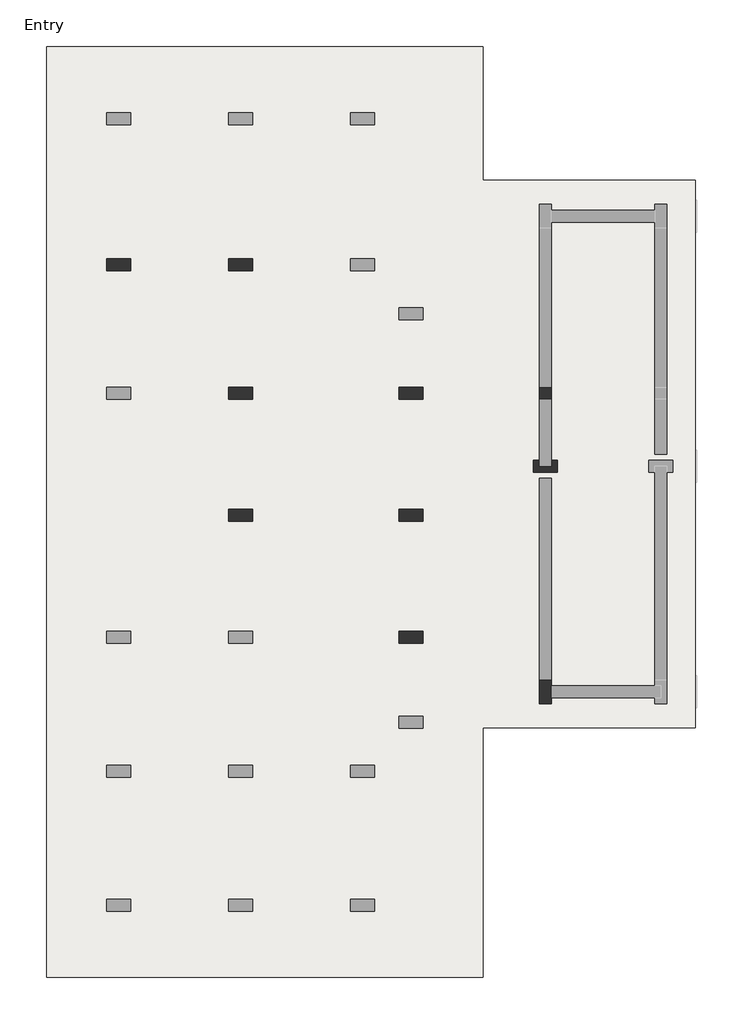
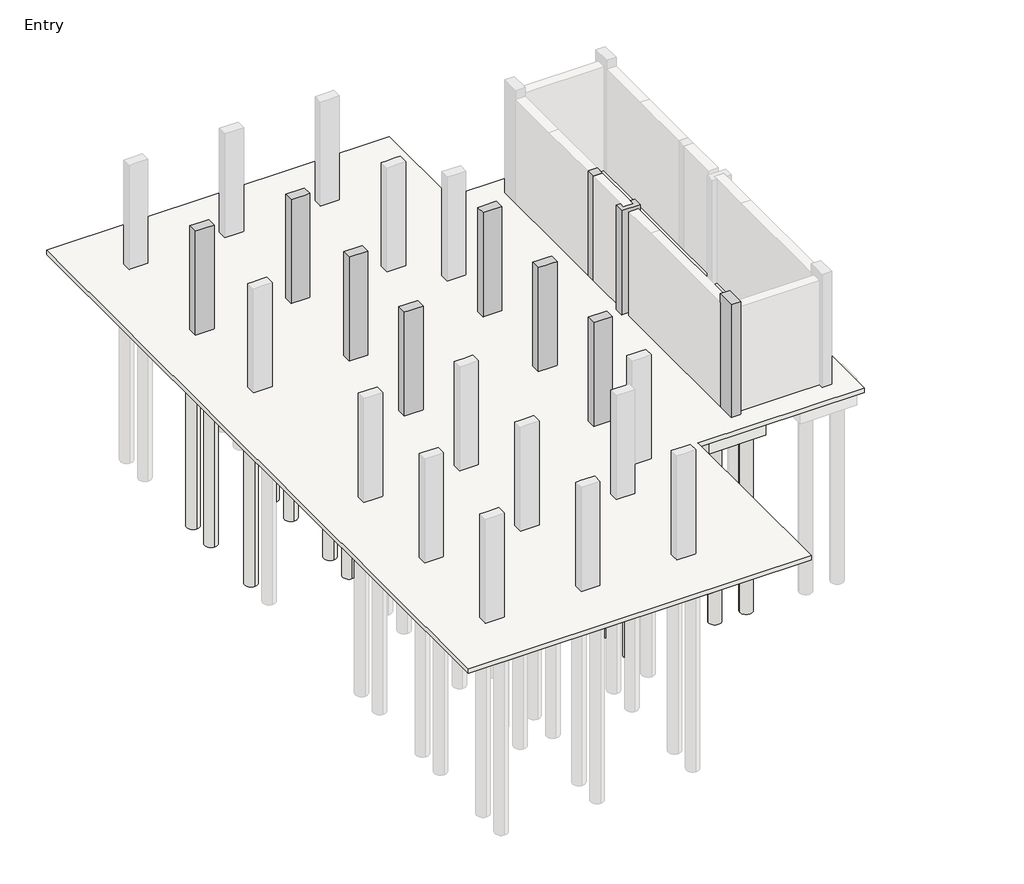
# One storey, part 2 of 3: 35 slabs, 10 columns, 3 footings.
"""IFC4 building model written with IfcOpenShell, lengths in millimetres."""

import ifcopenshell
import ifcopenshell.guid

model = None  # the IFC model being written
_history = None  # IfcOwnerHistory: only IFC2X3 demands one
_inside = {}  # id of a spatial element -> (the spatial element, [elements in it])
_under = {}  # id of a project, library or spatial element -> (it, [spatial elements below it])
_declared = {}  # id of a project -> (the project, [libraries it declares])
_typed = {}  # id of a type object -> (the type object, [elements of that type])
_made_of = {}  # id of a material, layer set ... -> (it, [elements and type objects made of it])


def new_model(schema):
    """Start an empty IFC model of exactly this schema.

    Asked for "IFC4X3", IfcOpenShell would pick the latest addendum, in which some entities
    have other attributes; the version numbers below select the first issue.
    IFC2X3 requires an IfcOwnerHistory on every rooted entity: one is made here for all.
    """
    global model, _history
    if schema == "IFC4X3":
        model = ifcopenshell.file(schema_version=(4, 3, 0, 0))
    else:
        model = ifcopenshell.file(schema=schema)
    _inside.clear()
    _under.clear()
    _declared.clear()
    _typed.clear()
    _made_of.clear()
    _history = None
    if model.schema == "IFC2X3":
        org = make("IfcOrganization", Name="unknown")
        user = make(
            "IfcPersonAndOrganization",
            ThePerson=make("IfcPerson", FamilyName="unknown"),
            TheOrganization=org,
        )
        app = make(
            "IfcApplication",
            ApplicationDeveloper=org,
            Version="unknown",
            ApplicationFullName="unknown",
            ApplicationIdentifier="unknown",
        )
        _history = make(
            "IfcOwnerHistory",
            OwningUser=user,
            OwningApplication=app,
            ChangeAction="ADDED",
            CreationDate=0,
        )
    return model


def make(cls, **values):
    """One entity of the class cls with the attributes given. An attribute that is None is left unset."""
    return model.create_entity(
        cls, **{name: value for name, value in values.items() if value is not None}
    )


def rooted(cls, **values):
    """An entity with a GlobalId (a new one), such as an element, a storey or a relation."""
    return make(cls, GlobalId=ifcopenshell.guid.new(), OwnerHistory=_history, **values)


def si_unit(unit_type, name, prefix=None):
    """IfcSIUnit, for example si_unit("LENGTHUNIT", "METRE", prefix="MILLI")."""
    return make("IfcSIUnit", UnitType=unit_type, Prefix=prefix, Name=name)


def assignment(units):
    """IfcUnitAssignment: the units of a project."""
    return None if units is None else make("IfcUnitAssignment", Units=units)


def point(xyz):
    """IfcCartesianPoint."""
    return None if xyz is None else make("IfcCartesianPoint", Coordinates=xyz)


def direction(xyz):
    """IfcDirection."""
    return None if xyz is None else make("IfcDirection", DirectionRatios=xyz)


def frame(location, z_axis=None, x_axis=None):
    """IfcAxis2Placement3D, a coordinate frame: its origin and axes. An axis left out is left unset."""
    return make(
        "IfcAxis2Placement3D",
        Location=point(location),
        Axis=direction(z_axis),
        RefDirection=direction(x_axis),
    )


def frame_2d(location, x_axis=None):
    """IfcAxis2Placement2D, a coordinate frame in the plane: its origin and x axis."""
    return make(
        "IfcAxis2Placement2D", Location=point(location), RefDirection=direction(x_axis)
    )


def origin():
    """The frame at (0, 0, 0) with its axes left unset."""
    return frame((0.0, 0.0, 0.0))


def origin_with_axes():
    """The frame at (0, 0, 0) with the z axis (0, 0, 1) and the x axis (1, 0, 0) written out."""
    return frame((0.0, 0.0, 0.0), z_axis=(0.0, 0.0, 1.0), x_axis=(1.0, 0.0, 0.0))


def place(relative_to, where):
    """IfcLocalPlacement: puts the frame where relative to a parent placement (None: the world)."""
    return make(
        "IfcLocalPlacement", PlacementRelTo=relative_to, RelativePlacement=where
    )


def context(
    kind, dimensions, precision=None, world=None, true_north=None, identifier=None
):
    """IfcGeometricRepresentationContext, for example the 3D "Model" context."""
    return make(
        "IfcGeometricRepresentationContext",
        ContextIdentifier=identifier,
        ContextType=kind,
        CoordinateSpaceDimension=dimensions,
        Precision=precision,
        WorldCoordinateSystem=world,
        TrueNorth=true_north,
    )


def project(units=None, contexts=None):
    """IfcProject with its units and contexts."""
    return rooted(
        "IfcProject",
        Name="project",
        RepresentationContexts=contexts,
        UnitsInContext=assignment(units),
    )


def spatial(cls, under=None, at=None, **own):
    """A site, building, storey or space (cls), placed at a placement, below another one or the project."""
    s = rooted(cls, ObjectPlacement=at, **own)
    if under is not None:
        _under.setdefault(under.id(), (under, []))[1].append(s)
    return s


def polyline(points):
    """IfcPolyline through the points."""
    return make("IfcPolyline", Points=[point(p) for p in points])


def circle_curve(where, radius):
    """IfcCircle in the frame where."""
    return make("IfcCircle", Position=where, Radius=radius)


def trimmed(basis, trim1, trim2, sense, master):
    """IfcTrimmedCurve: the piece of a basis curve between two trims."""
    return make(
        "IfcTrimmedCurve",
        BasisCurve=basis,
        Trim1=trim1,
        Trim2=trim2,
        SenseAgreement=sense,
        MasterRepresentation=master,
    )


def segment(curve, same_sense, transition):
    """IfcCompositeCurveSegment."""
    return make(
        "IfcCompositeCurveSegment",
        Transition=transition,
        SameSense=same_sense,
        ParentCurve=curve,
    )


def composite_curve(segments, self_intersect=None):
    """IfcCompositeCurve: segments joined end to end."""
    return make("IfcCompositeCurve", Segments=segments, SelfIntersect=self_intersect)


def outline(outer, holes=None, kind="AREA"):
    """IfcArbitraryClosedProfileDef: a profile drawn as a closed curve; with holes, ...WithVoids."""
    if holes is None:
        return make("IfcArbitraryClosedProfileDef", ProfileType=kind, OuterCurve=outer)
    return make(
        "IfcArbitraryProfileDefWithVoids",
        ProfileType=kind,
        OuterCurve=outer,
        InnerCurves=holes,
    )


def extrude(swept, where, along, depth):
    """IfcExtrudedAreaSolid: the profile swept, set in the frame where, extruded along a direction by depth."""
    return make(
        "IfcExtrudedAreaSolid",
        SweptArea=swept,
        Position=where,
        ExtrudedDirection=direction(along),
        Depth=depth,
    )


def faces_of(points, faces, orient=None, outer=None):
    """IfcFace entities. A face is a list of loops; a loop is a list of indices into points, from 0.

    orient and outer hold one flag for each loop. By default every Orientation is true, the
    first loop of a face is its IfcFaceOuterBound and the others are IfcFaceBound.
    """
    made = []
    for i, loops in enumerate(faces):
        bounds = []
        for j, loop in enumerate(loops):
            is_outer = j == 0 if outer is None else outer[i][j]
            bounds.append(
                make(
                    "IfcFaceOuterBound" if is_outer else "IfcFaceBound",
                    Bound=make("IfcPolyLoop", Polygon=[points[k] for k in loop]),
                    Orientation=True if orient is None else orient[i][j],
                )
            )
        made.append(make("IfcFace", Bounds=bounds))
    return made


def faceted_brep(points, faces, orient=None, outer=None, voids=None):
    """IfcFacetedBrep: a solid bounded by flat faces; with voids (closed shells), ...WithVoids."""
    shared = [point(p) for p in points]
    hull = make("IfcClosedShell", CfsFaces=faces_of(shared, faces, orient, outer))
    if voids is None:
        return make("IfcFacetedBrep", Outer=hull)
    return make(
        "IfcFacetedBrepWithVoids",
        Outer=hull,
        Voids=[
            make(cls, CfsFaces=faces_of(shared, fs, o, b)) for cls, fs, o, b in voids
        ],
    )


def shape(context_of_items, identifier, shape_type, items):
    """IfcShapeRepresentation: the items that make up one representation, for example the "Body"."""
    return make(
        "IfcShapeRepresentation",
        ContextOfItems=context_of_items,
        RepresentationIdentifier=identifier,
        RepresentationType=shape_type,
        Items=items,
    )


def made_of(thing, what):
    """Note that an element or type object is made of a material, layer set ...; save() writes the relation."""
    if what is not None:
        _made_of.setdefault(what.id(), (what, []))[1].append(thing)
    return thing


def element(
    cls,
    number,
    at=None,
    inside=None,
    cuts=None,
    type_object=None,
    material=None,
    context=None,
    identifier="Body",
    shape_type=None,
    held_by="IfcProductDefinitionShape",
    body=None,
    shapes=None,
    **own,
):
    """One element of the class cls, such as IfcWall. Its Tag is "e" and its number.

    at: its placement. inside: the storey or other place that contains it. cuts: it is an
    opening in that element (IfcRelVoidsElement). A single representation is given by context,
    identifier, shape_type and body (its items); several are given by shapes. held_by: the class
    of the entity that holds the representations. save() writes the other relations.
    """
    e = rooted(cls, Tag="e%d" % number, ObjectPlacement=at, **own)
    if body is not None:
        shapes = [shape(context, identifier, shape_type, body)]
    if shapes is not None:
        e.Representation = make(held_by, Representations=shapes)
    if inside is not None:
        _inside.setdefault(inside.id(), (inside, []))[1].append(e)
    if cuts is not None:
        rooted(
            "IfcRelVoidsElement", RelatingBuildingElement=cuts, RelatedOpeningElement=e
        )
    if type_object is not None:
        _typed.setdefault(type_object.id(), (type_object, []))[1].append(e)
    return made_of(e, material)


def aggregate(whole, parts):
    """IfcRelAggregates: a whole, such as a stair, and the parts it consists of."""
    return rooted("IfcRelAggregates", RelatingObject=whole, RelatedObjects=parts)


def save(model, path):
    """Write the relations noted so far, then the file.

    IfcRelAggregates (storeys below a building ...), IfcRelContainedInSpatialStructure (elements
    in a storey), IfcRelDefinesByType, IfcRelAssociatesMaterial and IfcRelDeclares: one each for
    every whole, place, type object, material and project.
    """
    for whole, parts in _under.values():
        aggregate(whole, parts)
    for where, things in _inside.values():
        rooted(
            "IfcRelContainedInSpatialStructure",
            RelatedElements=things,
            RelatingStructure=where,
        )
    for kind, things in _typed.values():
        rooted("IfcRelDefinesByType", RelatedObjects=things, RelatingType=kind)
    for what, things in _made_of.values():
        rooted("IfcRelAssociatesMaterial", RelatedObjects=things, RelatingMaterial=what)
    for by, libraries in _declared.values():
        rooted("IfcRelDeclares", RelatingContext=by, RelatedDefinitions=libraries)
    model.write(path)


model = new_model("IFC4")

# Units and contexts
model_context = context("Model", 3, world=origin())
ifc_project = project(units=[si_unit("LENGTHUNIT", "METRE", prefix="MILLI")], contexts=[model_context])

# Site, building, storey
site = spatial("IfcSite", under=ifc_project)
building = spatial("IfcBuilding", under=site)
storey = spatial("IfcBuildingStorey", under=building, Name="Entry", Elevation=0.0)

# Columns
placement = place(None, origin())
element("IfcColumn", 1, ObjectType="M_Concrete-Rectangular-Column : 300 x 600mm", at=placement, inside=storey, context=model_context, shape_type="Brep", body=[
    faceted_brep([(-13131.3472303, 11219.016665, 0.0), (-12531.3472303, 11219.016665, 0.0), (-12531.3472303, 10919.016665, 0.0), (-13131.3472303, 10919.016665, 0.0), (-13131.3472303, 11219.016665, 3505.2), (-12981.3472303, 11219.016665, 3505.2), (-12681.3472303, 11219.016665, 3505.2), (-12531.3472303, 11219.016665, 3505.2), (-12531.3472303, 11219.016665, 2910.0), (-12531.3472303, 10919.016665, 3505.2), (-12531.3472303, 10919.016665, 2910.0), (-12831.3472303, 10919.016665, 3505.2), (-12981.3472303, 10919.016665, 3505.2), (-13131.3472303, 10919.016665, 3505.2)], [[[0, 1, 2, 3]], [[4, 5, 6, 7, 8, 1, 0]], [[7, 9, 10, 2, 1, 8]], [[9, 11, 12, 13, 3, 2, 10]], [[13, 4, 0, 3]], [[4, 13, 12, 11, 9, 7, 6, 5]]]),
])
element("IfcColumn", 2, ObjectType="M_Concrete-Rectangular-Column : 300 x 600mm", at=placement, inside=storey, context=model_context, shape_type="Brep", body=[
    faceted_brep([(-10083.3472303, 11219.016665, 0.0), (-9483.3472303, 11219.016665, 0.0), (-9483.3472303, 10919.016665, 0.0), (-10083.3472303, 10919.016665, 0.0), (-10083.3472303, 11219.016665, 3505.2), (-9933.3472303, 11219.016665, 3505.2), (-9783.3472303, 11219.016665, 3505.2), (-9483.3472303, 11219.016665, 3505.2), (-9483.3472303, 11219.016665, 2910.0), (-10083.3472303, 11219.016665, 2910.0), (-9483.3472303, 10919.016665, 3505.2), (-9483.3472303, 10919.016665, 2910.0), (-9633.3472303, 10919.016665, 3505.2), (-9933.3472303, 10919.016665, 3505.2), (-10083.3472303, 10919.016665, 3505.2), (-10083.3472303, 10919.016665, 2910.0)], [[[0, 1, 2, 3]], [[4, 5, 6, 7, 8, 1, 0, 9]], [[7, 10, 11, 2, 1, 8]], [[10, 12, 13, 14, 15, 3, 2, 11]], [[14, 4, 9, 0, 3, 15]], [[4, 14, 13, 12, 10, 7, 6, 5]]]),
])
element("IfcColumn", 3, ObjectType="M_Concrete-Rectangular-Column : 300 x 600mm", at=placement, inside=storey, context=model_context, shape_type="Brep", body=[
    faceted_brep([(-10083.3472303, 8019.016665, 0.0), (-9483.3472303, 8019.016665, 0.0), (-9483.3472303, 7719.016665, 0.0), (-10083.3472303, 7719.016665, 0.0), (-10083.3472303, 8019.016665, 3505.2), (-9933.3472303, 8019.016665, 3505.2), (-9783.3472303, 8019.016665, 3505.2), (-9483.3472303, 8019.016665, 3505.2), (-9483.3472303, 8019.016665, 2910.0), (-10083.3472303, 8019.016665, 2910.0), (-9483.3472303, 7719.016665, 3505.2), (-9483.3472303, 7719.016665, 2910.0), (-9633.3472303, 7719.016665, 3505.2), (-9933.3472303, 7719.016665, 3505.2), (-10083.3472303, 7719.016665, 3505.2), (-10083.3472303, 7719.016665, 2910.0)], [[[0, 1, 2, 3]], [[4, 5, 6, 7, 8, 1, 0, 9]], [[7, 10, 11, 2, 1, 8]], [[10, 12, 13, 14, 15, 3, 2, 11]], [[14, 4, 9, 0, 3, 15]], [[4, 14, 13, 12, 10, 7, 6, 5]]]),
])
element("IfcColumn", 4, ObjectType="M_Concrete-Rectangular-Column : 300 x 600mm", at=placement, inside=storey, context=model_context, shape_type="Brep", body=[
    faceted_brep([(-5816.3472303, 8019.016665, 0.0), (-5216.3472303, 8019.016665, 0.0), (-5216.3472303, 7719.016665, 0.0), (-5816.3472303, 7719.016665, 0.0), (-5816.3472303, 8019.016665, 3505.2), (-5666.3472303, 8019.016665, 3505.2), (-5366.3472303, 8019.016665, 3505.2), (-5216.3472303, 8019.016665, 3505.2), (-5216.3472303, 8019.016665, 2910.0), (-5816.3472303, 8019.016665, 2910.0), (-5216.3472303, 7719.016665, 3505.2), (-5216.3472303, 7719.016665, 2910.0), (-5366.3472303, 7719.016665, 3505.2), (-5516.3472303, 7719.016665, 3505.2), (-5816.3472303, 7719.016665, 3505.2), (-5816.3472303, 7719.016665, 2910.0)], [[[0, 1, 2, 3]], [[4, 5, 6, 7, 8, 1, 0, 9]], [[7, 10, 11, 2, 1, 8]], [[10, 12, 13, 14, 15, 3, 2, 11]], [[14, 4, 9, 0, 3, 15]], [[4, 14, 13, 12, 10, 7, 6, 5]]]),
])
element("IfcColumn", 5, ObjectType="M_Concrete-Rectangular-Column : 300 x 600mm", at=placement, inside=storey, context=model_context, shape_type="SweptSolid", body=[
    extrude(outline(polyline([(-2013.3472303, 7719.016665), (-2313.3472303, 7719.016665), (-2313.3472303, 8019.016665), (-2013.3472303, 8019.016665), (-2013.3472303, 7719.016665)])), origin_with_axes(), (0.0, 0.0, 1.0), 3510.0),
])
element("IfcColumn", 6, ObjectType="M_Concrete-Rectangular-Column : 300 x 600mm", at=placement, inside=storey, context=model_context, shape_type="Brep", body=[
    faceted_brep([(-10083.3472303, 4971.016665, 0.0), (-9483.3472303, 4971.016665, 0.0), (-9483.3472303, 4671.016665, 0.0), (-10083.3472303, 4671.016665, 0.0), (-10083.3472303, 4971.016665, 3505.2), (-9933.3472303, 4971.016665, 3505.2), (-9783.3472303, 4971.016665, 3505.2), (-9483.3472303, 4971.016665, 3505.2), (-9483.3472303, 4971.016665, 2910.0), (-9483.3472303, 4671.016665, 3505.2), (-9483.3472303, 4671.016665, 2910.0), (-9783.3472303, 4671.016665, 3505.2), (-9933.3472303, 4671.016665, 3505.2), (-10083.3472303, 4671.016665, 3505.2)], [[[0, 1, 2, 3]], [[4, 5, 6, 7, 8, 1, 0]], [[7, 9, 10, 2, 1, 8]], [[9, 11, 12, 13, 3, 2, 10]], [[13, 4, 0, 3]], [[4, 13, 12, 11, 9, 7, 6, 5]]]),
])
element("IfcColumn", 7, ObjectType="M_Concrete-Rectangular-Column : 300 x 600mm", at=placement, inside=storey, context=model_context, shape_type="Brep", body=[
    faceted_brep([(-5816.3472303, 4971.016665, 0.0), (-5216.3472303, 4971.016665, 0.0), (-5216.3472303, 4671.016665, 0.0), (-5816.3472303, 4671.016665, 0.0), (-5816.3472303, 4971.016665, 3505.2), (-5666.3472303, 4971.016665, 3505.2), (-5366.3472303, 4971.016665, 3505.2), (-5216.3472303, 4971.016665, 3505.2), (-5216.3472303, 4971.016665, 2910.0), (-5816.3472303, 4971.016665, 2910.0), (-5216.3472303, 4671.016665, 3505.2), (-5216.3472303, 4671.016665, 2910.0), (-5366.3472303, 4671.016665, 3505.2), (-5516.3472303, 4671.016665, 3505.2), (-5816.3472303, 4671.016665, 3505.2), (-5816.3472303, 4671.016665, 2910.0)], [[[0, 1, 2, 3]], [[4, 5, 6, 7, 8, 1, 0, 9]], [[7, 10, 11, 2, 1, 8]], [[10, 12, 13, 14, 15, 3, 2, 11]], [[14, 4, 9, 0, 3, 15]], [[4, 14, 13, 12, 10, 7, 6, 5]]]),
])
element("IfcColumn", 8, ObjectType="M_Concrete-Rectangular-Column : 300 x 600mm", at=placement, inside=storey, context=model_context, shape_type="Brep", body=[
    faceted_brep([(-5816.3472303, 1923.016665, 0.0), (-5216.3472303, 1923.016665, 0.0), (-5216.3472303, 1623.016665, 0.0), (-5816.3472303, 1623.016665, 0.0), (-5816.3472303, 1923.016665, 3505.2), (-5666.3472303, 1923.016665, 3505.2), (-5366.3472303, 1923.016665, 3505.2), (-5216.3472303, 1923.016665, 3505.2), (-5816.3472303, 1923.016665, 2910.0), (-5216.3472303, 1623.016665, 3505.2), (-5366.3472303, 1623.016665, 3505.2), (-5516.3472303, 1623.016665, 3505.2), (-5816.3472303, 1623.016665, 3505.2), (-5816.3472303, 1623.016665, 2910.0)], [[[0, 1, 2, 3]], [[4, 5, 6, 7, 1, 0, 8]], [[7, 9, 2, 1]], [[9, 10, 11, 12, 13, 3, 2]], [[12, 4, 8, 0, 3, 13]], [[4, 12, 11, 10, 9, 7, 6, 5]]]),
])
element("IfcColumn", 9, ObjectType="M_Concrete-Rectangular-Column : 300 x 600mm", at=placement, inside=storey, context=model_context, shape_type="Brep", body=[
    faceted_brep([(-2313.3472303, 101.016665, 0.0), (-2313.3472303, 701.016665, 0.0), (-2013.3472303, 701.016665, 0.0), (-2013.3472303, 551.016665, 0.0), (-2013.3472303, 251.016665, 0.0), (-2013.3472303, 101.016665, 0.0), (-2313.3472303, 101.016665, 3810.0), (-2313.3472303, 701.016665, 3810.0), (-2313.3472303, 701.016665, 3510.0), (-2013.3472303, 701.016665, 3810.0), (-2013.3472303, 701.016665, 3510.0), (-2013.3472303, 101.016665, 3810.0)], [[[0, 1, 2, 3, 4, 5]], [[6, 7, 8, 1, 0]], [[7, 9, 10, 2, 1, 8]], [[9, 11, 5, 4, 3, 2, 10]], [[11, 6, 0, 5]], [[6, 11, 9, 7]]]),
])
element("IfcColumn", 10, ObjectType="M_Concrete-Rectangular-Column : 300 x 600mm", at=placement, inside=storey, context=model_context, shape_type="SweptSolid", body=[
    extrude(outline(polyline([(-1863.3472303, 5890.016665), (-2463.3472303, 5890.016665), (-2463.3472303, 6190.016665), (-2313.3472303, 6190.016665), (-2313.3472303, 6040.016665), (-2013.3472303, 6040.016665), (-2013.3472303, 6190.016665), (-1863.3472303, 6190.016665), (-1863.3472303, 5890.016665)])), origin_with_axes(), (0.0, 0.0, 1.0), 3510.0),
])

# Footings
element("IfcFooting", 11, ObjectType="Bearing Footing - 900 x 300", at=placement, inside=storey, context=model_context, shape_type="Brep", body=[
    faceted_brep([(732.6527697, -48.983335, -300.0), (732.6527697, 1.016665, -300.0), (732.6527697, 1.016665, -150.0), (732.6527697, -48.983335, -150.0), (-2013.3472303, 1.016665, -300.0), (-2013.3472303, -48.983335, -300.0), (-2013.3472303, -48.983335, -150.0), (-2013.3472303, 1.016665, -150.0), (-2013.3472303, 851.016665, -300.0), (-2013.3472303, 801.016665, -300.0), (-2013.3472303, 801.016665, -150.0), (-2013.3472303, 851.016665, -150.0), (-1263.3472303, 1.016665, -300.0), (-1263.3472303, 801.016665, -300.0), (-1713.3472303, 851.016665, -300.0), (282.6527697, 851.016665, -300.0), (282.6527697, 801.016665, -300.0), (-167.3472303, 801.016665, -300.0), (-167.3472303, 1.016665, -300.0), (-1713.3472303, 851.016665, -150.0), (282.6527697, 851.016665, -150.0), (-1263.3472303, 1.016665, -150.0), (-1263.3472303, 801.016665, -150.0), (-167.3472303, 1.016665, -150.0), (282.6527697, 801.016665, -150.0), (-167.3472303, 801.016665, -150.0)], [[[0, 1, 2, 3]], [[4, 5, 6, 7]], [[8, 9, 10, 11]], [[5, 0, 3, 6]], [[0, 5, 4, 12, 13, 9, 8, 14, 15, 16, 17, 18, 1]], [[15, 14, 8, 11, 19, 20]], [[12, 4, 7, 21]], [[13, 12, 21, 22]], [[9, 13, 22, 10]], [[1, 18, 23, 2]], [[17, 16, 24, 25]], [[18, 17, 25, 23]], [[16, 15, 20, 24]], [[3, 2, 23, 25, 24, 20, 19, 11, 10, 22, 21, 7, 6]]]),
])
element("IfcFooting", 12, ObjectType="Bearing Footing - 900 x 300", at=placement, inside=storey, context=model_context, shape_type="SweptSolid", body=[
    extrude(outline(polyline([(-2613.3472303, 5640.016665), (-1713.3472303, 5640.016665), (-1713.3472303, 851.016665), (-2013.3472303, 851.016665), (-2013.3472303, 801.016665), (-2613.3472303, 801.016665), (-2613.3472303, 5640.016665)])), frame((0.0, 0.0, -300.0), z_axis=(0.0, 0.0, 1.0), x_axis=(1.0, 0.0, 0.0)), (0.0, 0.0, 1.0), 150.0),
])
element("IfcFooting", 13, ObjectType="Bearing Footing - 900 x 300", at=placement, inside=storey, context=model_context, shape_type="SweptSolid", body=[
    extrude(outline(polyline([(-2613.3472303, 7719.016665), (-2563.3472303, 7719.016665), (-2563.3472303, 6969.016665), (-1763.3472303, 6969.016665), (-1763.3472303, 7719.016665), (-1713.3472303, 7719.016665), (-1713.3472303, 6440.016665), (-2613.3472303, 6440.016665), (-2613.3472303, 7719.016665)])), frame((0.0, 0.0, -300.0), z_axis=(0.0, 0.0, 1.0), x_axis=(1.0, 0.0, 0.0)), (0.0, 0.0, 1.0), 150.0),
])

# Slabs
element("IfcSlab", 14, ObjectType="150mm Foundation Slab", at=placement, inside=storey, context=model_context, shape_type="Brep", body=[
    faceted_brep([(-3716.3472303, 16526.016665, -150.0), (-3716.3472303, 13188.016665, -150.0), (1583.6527697, 13188.016665, -150.0), (1583.6527697, 12688.016665, -150.0), (1583.6527697, 11888.016665, -150.0), (1583.6527697, 6440.016665, -150.0), (1583.6527697, 5640.016665, -150.0), (1583.6527697, 801.016665, -150.0), (1583.6527697, 1.016665, -150.0), (1583.6527697, -498.983335, -150.0), (-3716.3472303, -498.983335, -150.0), (-3716.3472303, -6732.983335, -150.0), (-14631.3472303, -6732.983335, -150.0), (-14631.3472303, 16526.016665, -150.0), (-3716.3472303, 16526.016665, 0.0), (-14631.3472303, 16526.016665, 0.0), (-14631.3472303, -6732.983335, 0.0), (-3716.3472303, -6732.983335, 0.0), (-3716.3472303, -498.983335, 0.0), (1583.6527697, -498.983335, 0.0), (1583.6527697, 1.016665, 0.0), (1583.6527697, 801.016665, 0.0), (1583.6527697, 5640.016665, 0.0), (1583.6527697, 6440.016665, 0.0), (1583.6527697, 11888.016665, 0.0), (1583.6527697, 12688.016665, 0.0), (1583.6527697, 13188.016665, 0.0), (-3716.3472303, 13188.016665, 0.0)], [[[0, 1, 2, 3, 4, 5, 6, 7, 8, 9, 10, 11, 12, 13]], [[14, 15, 16, 17, 18, 19, 20, 21, 22, 23, 24, 25, 26, 27]], [[1, 0, 14, 27]], [[2, 1, 27, 26]], [[9, 8, 7, 6, 5, 4, 3, 2, 26, 25, 24, 23, 22, 21, 20, 19]], [[10, 9, 19, 18]], [[11, 10, 18, 17]], [[12, 11, 17, 16]], [[13, 12, 16, 15]], [[0, 13, 15, 14]]]),
])
element("IfcSlab", 15, ObjectType="M_Pile Cap-2 Pile : 800 x 1500 x 900", at=placement, inside=storey, context=model_context, shape_type="SweptSolid", body=[
    extrude(outline(polyline([(-13231.3472303, 11969.016665), (-12431.3472303, 11969.016665), (-12431.3472303, 10169.016665), (-13231.3472303, 10169.016665), (-13231.3472303, 11969.016665)])), frame((0.0, 0.0, -900.0), z_axis=(0.0, 0.0, 1.0), x_axis=(1.0, 0.0, 0.0)), (0.0, 0.0, 1.0), 750.0),
])
element("IfcSlab", 16, ObjectType="M_Pile Cap-2 Pile : 800 x 1500 x 900", at=placement, inside=storey, context=model_context, shape_type="Brep", body=[
    faceted_brep([(-2563.3472303, 8769.016665, -900.0), (-1763.3472303, 8769.016665, -900.0), (-1763.3472303, 6969.016665, -900.0), (-2563.3472303, 6969.016665, -900.0), (-2563.3472303, 6969.016665, -300.0), (-2563.3472303, 6969.016665, -150.0), (-2563.3472303, 7719.016665, -150.0), (-2563.3472303, 8019.016665, -150.0), (-2563.3472303, 8769.016665, -150.0), (-2563.3472303, 8769.016665, -300.0), (-1763.3472303, 6969.016665, -300.0), (-1763.3472303, 6969.016665, -150.0), (-1763.3472303, 8769.016665, -300.0), (-1763.3472303, 8769.016665, -150.0), (-1763.3472303, 8019.016665, -150.0), (-1763.3472303, 7719.016665, -150.0)], [[[0, 1, 2, 3]], [[0, 3, 4, 5, 6, 7, 8, 9]], [[3, 2, 10, 11, 5, 4]], [[2, 1, 12, 13, 14, 15, 11, 10]], [[1, 0, 9, 8, 13, 12]], [[8, 7, 6, 5, 11, 15, 14, 13]]]),
])
element("IfcSlab", 17, ObjectType="M_Pile Cap-2 Pile : 800 x 1500 x 900", at=placement, inside=storey, context=model_context, shape_type="Brep", body=[
    faceted_brep([(-3063.3472303, 5640.016665, -900.0), (-3063.3472303, 6440.016665, -900.0), (-1263.3472303, 6440.016665, -900.0), (-1263.3472303, 5640.016665, -900.0), (-1263.3472303, 5640.016665, -150.0), (-1713.3472303, 5640.016665, -150.0), (-2613.3472303, 5640.016665, -150.0), (-3063.3472303, 5640.016665, -150.0), (-1263.3472303, 6440.016665, -150.0), (-3063.3472303, 6440.016665, -150.0), (-2613.3472303, 6440.016665, -150.0), (-1713.3472303, 6440.016665, -150.0)], [[[0, 1, 2, 3]], [[0, 3, 4, 5, 6, 7]], [[3, 2, 8, 4]], [[2, 1, 9, 10, 11, 8]], [[1, 0, 7, 9]], [[7, 6, 5, 4, 8, 11, 10, 9]]]),
])
element("IfcSlab", 18, ObjectType="M_Pile Cap-2 Pile : 800 x 1500 x 900", at=placement, inside=storey, context=model_context, shape_type="Brep", body=[
    faceted_brep([(-3063.3472303, 1.016665, -900.0), (-3063.3472303, 801.016665, -900.0), (-1263.3472303, 801.016665, -900.0), (-1263.3472303, 1.016665, -900.0), (-1263.3472303, 1.016665, -300.0), (-1263.3472303, 1.016665, -150.0), (-2013.3472303, 1.016665, -150.0), (-3063.3472303, 1.016665, -150.0), (-1263.3472303, 801.016665, -300.0), (-1263.3472303, 801.016665, -150.0), (-3063.3472303, 801.016665, -150.0), (-2613.3472303, 801.016665, -150.0), (-2013.3472303, 801.016665, -150.0)], [[[0, 1, 2, 3]], [[0, 3, 4, 5, 6, 7]], [[3, 2, 8, 9, 5, 4]], [[2, 1, 10, 11, 12, 9, 8]], [[1, 0, 7, 10]], [[7, 6, 5, 9, 12, 11, 10]]]),
])
element("IfcSlab", 19, ObjectType="M_Pile Cap-2 Pile : 800 x 1500 x 900", at=placement, inside=storey, context=model_context, shape_type="SweptSolid", body=[
    extrude(outline(polyline([(-5916.3472303, 2673.016665), (-5116.3472303, 2673.016665), (-5116.3472303, 873.016665), (-5916.3472303, 873.016665), (-5916.3472303, 2673.016665)])), frame((0.0, 0.0, -900.0), z_axis=(0.0, 0.0, 1.0), x_axis=(1.0, 0.0, 0.0)), (0.0, 0.0, 1.0), 750.0),
])
element("IfcSlab", 20, ObjectType="M_Pile Cap-2 Pile : 800 x 1500 x 900", at=placement, inside=storey, context=model_context, shape_type="SweptSolid", body=[
    extrude(outline(polyline([(-5916.3472303, 5721.016665), (-5116.3472303, 5721.016665), (-5116.3472303, 3921.016665), (-5916.3472303, 3921.016665), (-5916.3472303, 5721.016665)])), frame((0.0, 0.0, -900.0), z_axis=(0.0, 0.0, 1.0), x_axis=(1.0, 0.0, 0.0)), (0.0, 0.0, 1.0), 750.0),
])
element("IfcSlab", 21, ObjectType="M_Pile Cap-2 Pile : 800 x 1500 x 900", at=placement, inside=storey, context=model_context, shape_type="SweptSolid", body=[
    extrude(outline(polyline([(-5916.3472303, 8769.016665), (-5116.3472303, 8769.016665), (-5116.3472303, 6969.016665), (-5916.3472303, 6969.016665), (-5916.3472303, 8769.016665)])), frame((0.0, 0.0, -900.0), z_axis=(0.0, 0.0, 1.0), x_axis=(1.0, 0.0, 0.0)), (0.0, 0.0, 1.0), 750.0),
])
element("IfcSlab", 22, ObjectType="M_Pile Cap-4 Pile : 1800 x 1800 x 900", at=placement, inside=storey, context=model_context, shape_type="SweptSolid", body=[
    extrude(outline(polyline([(-10683.3472303, 11969.016665), (-8883.3472303, 11969.016665), (-8883.3472303, 10169.016665), (-10683.3472303, 10169.016665), (-10683.3472303, 11969.016665)])), frame((0.0, 0.0, -900.0), z_axis=(0.0, 0.0, 1.0), x_axis=(1.0, 0.0, 0.0)), (0.0, 0.0, 1.0), 750.0),
])
element("IfcSlab", 23, ObjectType="M_Pile Cap-4 Pile : 1800 x 1800 x 900", at=placement, inside=storey, context=model_context, shape_type="SweptSolid", body=[
    extrude(outline(polyline([(-10683.3472303, 8769.016665), (-8883.3472303, 8769.016665), (-8883.3472303, 6969.016665), (-10683.3472303, 6969.016665), (-10683.3472303, 8769.016665)])), frame((0.0, 0.0, -900.0), z_axis=(0.0, 0.0, 1.0), x_axis=(1.0, 0.0, 0.0)), (0.0, 0.0, 1.0), 750.0),
])
element("IfcSlab", 24, ObjectType="M_Pile Cap-4 Pile : 1800 x 1800 x 900", at=placement, inside=storey, context=model_context, shape_type="SweptSolid", body=[
    extrude(outline(polyline([(-10683.3472303, 5721.016665), (-8883.3472303, 5721.016665), (-8883.3472303, 3921.016665), (-10683.3472303, 3921.016665), (-10683.3472303, 5721.016665)])), frame((0.0, 0.0, -900.0), z_axis=(0.0, 0.0, 1.0), x_axis=(1.0, 0.0, 0.0)), (0.0, 0.0, 1.0), 750.0),
])
element("IfcSlab", 25, ObjectType="M_Pile-Steel Pipe : 400mm Diameter", at=placement, inside=storey, context=model_context, shape_type="SweptSolid", body=[
    extrude(outline(composite_curve([segment(trimmed(circle_curve(frame_2d((-9263.3472303, 10549.016665)), 200.0), [point((-9263.3472303, 10349.016665))], [point((-9263.3472303, 10749.016665))], False, "CARTESIAN"), True, "CONTINUOUS"), segment(trimmed(circle_curve(frame_2d((-9263.3472303, 10549.016665)), 200.0), [point((-9263.3472303, 10749.016665))], [point((-9263.3472303, 10349.016665))], False, "CARTESIAN"), True, "CONTINUOUS")], self_intersect=False)), frame((0.0, 0.0, -6900.0), z_axis=(0.0, 0.0, 1.0), x_axis=(1.0, 0.0, 0.0)), (0.0, 0.0, 1.0), 6000.0),
])
element("IfcSlab", 26, ObjectType="M_Pile-Steel Pipe : 400mm Diameter", at=placement, inside=storey, context=model_context, shape_type="SweptSolid", body=[
    extrude(outline(composite_curve([segment(trimmed(circle_curve(frame_2d((-9263.3472303, 11589.016665)), 200.0), [point((-9263.3472303, 11389.016665))], [point((-9263.3472303, 11789.016665))], False, "CARTESIAN"), True, "CONTINUOUS"), segment(trimmed(circle_curve(frame_2d((-9263.3472303, 11589.016665)), 200.0), [point((-9263.3472303, 11789.016665))], [point((-9263.3472303, 11389.016665))], False, "CARTESIAN"), True, "CONTINUOUS")], self_intersect=False)), frame((0.0, 0.0, -6900.0), z_axis=(0.0, 0.0, 1.0), x_axis=(1.0, 0.0, 0.0)), (0.0, 0.0, 1.0), 6000.0),
])
element("IfcSlab", 27, ObjectType="M_Pile-Steel Pipe : 400mm Diameter", at=placement, inside=storey, context=model_context, shape_type="SweptSolid", body=[
    extrude(outline(composite_curve([segment(trimmed(circle_curve(frame_2d((-10303.3472303, 11589.016665)), 200.0), [point((-10303.3472303, 11389.016665))], [point((-10303.3472303, 11789.016665))], False, "CARTESIAN"), True, "CONTINUOUS"), segment(trimmed(circle_curve(frame_2d((-10303.3472303, 11589.016665)), 200.0), [point((-10303.3472303, 11789.016665))], [point((-10303.3472303, 11389.016665))], False, "CARTESIAN"), True, "CONTINUOUS")], self_intersect=False)), frame((0.0, 0.0, -6900.0), z_axis=(0.0, 0.0, 1.0), x_axis=(1.0, 0.0, 0.0)), (0.0, 0.0, 1.0), 6000.0),
])
element("IfcSlab", 28, ObjectType="M_Pile-Steel Pipe : 400mm Diameter", at=placement, inside=storey, context=model_context, shape_type="SweptSolid", body=[
    extrude(outline(composite_curve([segment(trimmed(circle_curve(frame_2d((-10303.3472303, 10549.016665)), 200.0), [point((-10303.3472303, 10349.016665))], [point((-10303.3472303, 10749.016665))], False, "CARTESIAN"), True, "CONTINUOUS"), segment(trimmed(circle_curve(frame_2d((-10303.3472303, 10549.016665)), 200.0), [point((-10303.3472303, 10749.016665))], [point((-10303.3472303, 10349.016665))], False, "CARTESIAN"), True, "CONTINUOUS")], self_intersect=False)), frame((0.0, 0.0, -6900.0), z_axis=(0.0, 0.0, 1.0), x_axis=(1.0, 0.0, 0.0)), (0.0, 0.0, 1.0), 6000.0),
])
element("IfcSlab", 29, ObjectType="M_Pile-Steel Pipe : 400mm Diameter", at=placement, inside=storey, context=model_context, shape_type="SweptSolid", body=[
    extrude(outline(composite_curve([segment(trimmed(circle_curve(frame_2d((-9263.3472303, 7349.016665)), 200.0), [point((-9263.3472303, 7149.016665))], [point((-9263.3472303, 7549.016665))], False, "CARTESIAN"), True, "CONTINUOUS"), segment(trimmed(circle_curve(frame_2d((-9263.3472303, 7349.016665)), 200.0), [point((-9263.3472303, 7549.016665))], [point((-9263.3472303, 7149.016665))], False, "CARTESIAN"), True, "CONTINUOUS")], self_intersect=False)), frame((0.0, 0.0, -6900.0), z_axis=(0.0, 0.0, 1.0), x_axis=(1.0, 0.0, 0.0)), (0.0, 0.0, 1.0), 6000.0),
])
element("IfcSlab", 30, ObjectType="M_Pile-Steel Pipe : 400mm Diameter", at=placement, inside=storey, context=model_context, shape_type="SweptSolid", body=[
    extrude(outline(composite_curve([segment(trimmed(circle_curve(frame_2d((-9263.3472303, 8389.016665)), 200.0), [point((-9263.3472303, 8189.016665))], [point((-9263.3472303, 8589.016665))], False, "CARTESIAN"), True, "CONTINUOUS"), segment(trimmed(circle_curve(frame_2d((-9263.3472303, 8389.016665)), 200.0), [point((-9263.3472303, 8589.016665))], [point((-9263.3472303, 8189.016665))], False, "CARTESIAN"), True, "CONTINUOUS")], self_intersect=False)), frame((0.0, 0.0, -6900.0), z_axis=(0.0, 0.0, 1.0), x_axis=(1.0, 0.0, 0.0)), (0.0, 0.0, 1.0), 6000.0),
])
element("IfcSlab", 31, ObjectType="M_Pile-Steel Pipe : 400mm Diameter", at=placement, inside=storey, context=model_context, shape_type="SweptSolid", body=[
    extrude(outline(composite_curve([segment(trimmed(circle_curve(frame_2d((-10303.3472303, 8389.016665)), 200.0), [point((-10303.3472303, 8189.016665))], [point((-10303.3472303, 8589.016665))], False, "CARTESIAN"), True, "CONTINUOUS"), segment(trimmed(circle_curve(frame_2d((-10303.3472303, 8389.016665)), 200.0), [point((-10303.3472303, 8589.016665))], [point((-10303.3472303, 8189.016665))], False, "CARTESIAN"), True, "CONTINUOUS")], self_intersect=False)), frame((0.0, 0.0, -6900.0), z_axis=(0.0, 0.0, 1.0), x_axis=(1.0, 0.0, 0.0)), (0.0, 0.0, 1.0), 6000.0),
])
element("IfcSlab", 32, ObjectType="M_Pile-Steel Pipe : 400mm Diameter", at=placement, inside=storey, context=model_context, shape_type="SweptSolid", body=[
    extrude(outline(composite_curve([segment(trimmed(circle_curve(frame_2d((-10303.3472303, 7349.016665)), 200.0), [point((-10303.3472303, 7149.016665))], [point((-10303.3472303, 7549.016665))], False, "CARTESIAN"), True, "CONTINUOUS"), segment(trimmed(circle_curve(frame_2d((-10303.3472303, 7349.016665)), 200.0), [point((-10303.3472303, 7549.016665))], [point((-10303.3472303, 7149.016665))], False, "CARTESIAN"), True, "CONTINUOUS")], self_intersect=False)), frame((0.0, 0.0, -6900.0), z_axis=(0.0, 0.0, 1.0), x_axis=(1.0, 0.0, 0.0)), (0.0, 0.0, 1.0), 6000.0),
])
element("IfcSlab", 33, ObjectType="M_Pile-Steel Pipe : 400mm Diameter", at=placement, inside=storey, context=model_context, shape_type="SweptSolid", body=[
    extrude(outline(composite_curve([segment(trimmed(circle_curve(frame_2d((-9263.3472303, 4301.016665)), 200.0), [point((-9263.3472303, 4101.016665))], [point((-9263.3472303, 4501.016665))], False, "CARTESIAN"), True, "CONTINUOUS"), segment(trimmed(circle_curve(frame_2d((-9263.3472303, 4301.016665)), 200.0), [point((-9263.3472303, 4501.016665))], [point((-9263.3472303, 4101.016665))], False, "CARTESIAN"), True, "CONTINUOUS")], self_intersect=False)), frame((0.0, 0.0, -6900.0), z_axis=(0.0, 0.0, 1.0), x_axis=(1.0, 0.0, 0.0)), (0.0, 0.0, 1.0), 6000.0),
])
element("IfcSlab", 34, ObjectType="M_Pile-Steel Pipe : 400mm Diameter", at=placement, inside=storey, context=model_context, shape_type="SweptSolid", body=[
    extrude(outline(composite_curve([segment(trimmed(circle_curve(frame_2d((-9263.3472303, 5341.016665)), 200.0), [point((-9263.3472303, 5141.016665))], [point((-9263.3472303, 5541.016665))], False, "CARTESIAN"), True, "CONTINUOUS"), segment(trimmed(circle_curve(frame_2d((-9263.3472303, 5341.016665)), 200.0), [point((-9263.3472303, 5541.016665))], [point((-9263.3472303, 5141.016665))], False, "CARTESIAN"), True, "CONTINUOUS")], self_intersect=False)), frame((0.0, 0.0, -6900.0), z_axis=(0.0, 0.0, 1.0), x_axis=(1.0, 0.0, 0.0)), (0.0, 0.0, 1.0), 6000.0),
])
element("IfcSlab", 35, ObjectType="M_Pile-Steel Pipe : 400mm Diameter", at=placement, inside=storey, context=model_context, shape_type="SweptSolid", body=[
    extrude(outline(composite_curve([segment(trimmed(circle_curve(frame_2d((-12831.3472303, 10569.016665)), 200.0), [point((-12831.3472303, 10369.016665))], [point((-12831.3472303, 10769.016665))], False, "CARTESIAN"), True, "CONTINUOUS"), segment(trimmed(circle_curve(frame_2d((-12831.3472303, 10569.016665)), 200.0), [point((-12831.3472303, 10769.016665))], [point((-12831.3472303, 10369.016665))], False, "CARTESIAN"), True, "CONTINUOUS")], self_intersect=False)), frame((0.0, 0.0, -6900.0), z_axis=(0.0, 0.0, 1.0), x_axis=(1.0, 0.0, 0.0)), (0.0, 0.0, 1.0), 6000.0),
])
element("IfcSlab", 36, ObjectType="M_Pile-Steel Pipe : 400mm Diameter", at=placement, inside=storey, context=model_context, shape_type="SweptSolid", body=[
    extrude(outline(composite_curve([segment(trimmed(circle_curve(frame_2d((-12831.3472303, 11569.016665)), 200.0), [point((-12831.3472303, 11369.016665))], [point((-12831.3472303, 11769.016665))], False, "CARTESIAN"), True, "CONTINUOUS"), segment(trimmed(circle_curve(frame_2d((-12831.3472303, 11569.016665)), 200.0), [point((-12831.3472303, 11769.016665))], [point((-12831.3472303, 11369.016665))], False, "CARTESIAN"), True, "CONTINUOUS")], self_intersect=False)), frame((0.0, 0.0, -6900.0), z_axis=(0.0, 0.0, 1.0), x_axis=(1.0, 0.0, 0.0)), (0.0, 0.0, 1.0), 6000.0),
])
element("IfcSlab", 37, ObjectType="M_Pile-Steel Pipe : 400mm Diameter", at=placement, inside=storey, context=model_context, shape_type="SweptSolid", body=[
    extrude(outline(composite_curve([segment(trimmed(circle_curve(frame_2d((-2163.3472303, 7369.016665)), 200.0), [point((-2163.3472303, 7169.016665))], [point((-2163.3472303, 7569.016665))], False, "CARTESIAN"), True, "CONTINUOUS"), segment(trimmed(circle_curve(frame_2d((-2163.3472303, 7369.016665)), 200.0), [point((-2163.3472303, 7569.016665))], [point((-2163.3472303, 7169.016665))], False, "CARTESIAN"), True, "CONTINUOUS")], self_intersect=False)), frame((0.0, 0.0, -6900.0), z_axis=(0.0, 0.0, 1.0), x_axis=(1.0, 0.0, 0.0)), (0.0, 0.0, 1.0), 6000.0),
])
element("IfcSlab", 38, ObjectType="M_Pile-Steel Pipe : 400mm Diameter", at=placement, inside=storey, context=model_context, shape_type="SweptSolid", body=[
    extrude(outline(composite_curve([segment(trimmed(circle_curve(frame_2d((-1663.3472303, 6040.016665)), 200.0), [point((-1463.3472303, 6040.016665))], [point((-1863.3472303, 6040.016665))], False, "CARTESIAN"), True, "CONTINUOUS"), segment(trimmed(circle_curve(frame_2d((-1663.3472303, 6040.016665)), 200.0), [point((-1863.3472303, 6040.016665))], [point((-1463.3472303, 6040.016665))], False, "CARTESIAN"), True, "CONTINUOUS")], self_intersect=False)), frame((0.0, 0.0, -6900.0), z_axis=(0.0, 0.0, 1.0), x_axis=(1.0, 0.0, 0.0)), (0.0, 0.0, 1.0), 6000.0),
])
element("IfcSlab", 39, ObjectType="M_Pile-Steel Pipe : 400mm Diameter", at=placement, inside=storey, context=model_context, shape_type="SweptSolid", body=[
    extrude(outline(composite_curve([segment(trimmed(circle_curve(frame_2d((-2663.3472303, 6040.016665)), 200.0), [point((-2463.3472303, 6040.016665))], [point((-2863.3472303, 6040.016665))], False, "CARTESIAN"), True, "CONTINUOUS"), segment(trimmed(circle_curve(frame_2d((-2663.3472303, 6040.016665)), 200.0), [point((-2863.3472303, 6040.016665))], [point((-2463.3472303, 6040.016665))], False, "CARTESIAN"), True, "CONTINUOUS")], self_intersect=False)), frame((0.0, 0.0, -6900.0), z_axis=(0.0, 0.0, 1.0), x_axis=(1.0, 0.0, 0.0)), (0.0, 0.0, 1.0), 6000.0),
])
element("IfcSlab", 40, ObjectType="M_Pile-Steel Pipe : 400mm Diameter", at=placement, inside=storey, context=model_context, shape_type="SweptSolid", body=[
    extrude(outline(composite_curve([segment(trimmed(circle_curve(frame_2d((-1663.3472303, 401.016665)), 200.0), [point((-1463.3472303, 401.016665))], [point((-1863.3472303, 401.016665))], False, "CARTESIAN"), True, "CONTINUOUS"), segment(trimmed(circle_curve(frame_2d((-1663.3472303, 401.016665)), 200.0), [point((-1863.3472303, 401.016665))], [point((-1463.3472303, 401.016665))], False, "CARTESIAN"), True, "CONTINUOUS")], self_intersect=False)), frame((0.0, 0.0, -6900.0), z_axis=(0.0, 0.0, 1.0), x_axis=(1.0, 0.0, 0.0)), (0.0, 0.0, 1.0), 6000.0),
])
element("IfcSlab", 41, ObjectType="M_Pile-Steel Pipe : 400mm Diameter", at=placement, inside=storey, context=model_context, shape_type="SweptSolid", body=[
    extrude(outline(composite_curve([segment(trimmed(circle_curve(frame_2d((-2663.3472303, 401.016665)), 200.0), [point((-2463.3472303, 401.016665))], [point((-2863.3472303, 401.016665))], False, "CARTESIAN"), True, "CONTINUOUS"), segment(trimmed(circle_curve(frame_2d((-2663.3472303, 401.016665)), 200.0), [point((-2863.3472303, 401.016665))], [point((-2463.3472303, 401.016665))], False, "CARTESIAN"), True, "CONTINUOUS")], self_intersect=False)), frame((0.0, 0.0, -6900.0), z_axis=(0.0, 0.0, 1.0), x_axis=(1.0, 0.0, 0.0)), (0.0, 0.0, 1.0), 6000.0),
])
element("IfcSlab", 42, ObjectType="M_Pile-Steel Pipe : 400mm Diameter", at=placement, inside=storey, context=model_context, shape_type="SweptSolid", body=[
    extrude(outline(composite_curve([segment(trimmed(circle_curve(frame_2d((-5516.3472303, 1273.016665)), 200.0), [point((-5516.3472303, 1073.016665))], [point((-5516.3472303, 1473.016665))], False, "CARTESIAN"), True, "CONTINUOUS"), segment(trimmed(circle_curve(frame_2d((-5516.3472303, 1273.016665)), 200.0), [point((-5516.3472303, 1473.016665))], [point((-5516.3472303, 1073.016665))], False, "CARTESIAN"), True, "CONTINUOUS")], self_intersect=False)), frame((0.0, 0.0, -6900.0), z_axis=(0.0, 0.0, 1.0), x_axis=(1.0, 0.0, 0.0)), (0.0, 0.0, 1.0), 6000.0),
])
element("IfcSlab", 43, ObjectType="M_Pile-Steel Pipe : 400mm Diameter", at=placement, inside=storey, context=model_context, shape_type="SweptSolid", body=[
    extrude(outline(composite_curve([segment(trimmed(circle_curve(frame_2d((-5516.3472303, 2273.016665)), 200.0), [point((-5516.3472303, 2073.016665))], [point((-5516.3472303, 2473.016665))], False, "CARTESIAN"), True, "CONTINUOUS"), segment(trimmed(circle_curve(frame_2d((-5516.3472303, 2273.016665)), 200.0), [point((-5516.3472303, 2473.016665))], [point((-5516.3472303, 2073.016665))], False, "CARTESIAN"), True, "CONTINUOUS")], self_intersect=False)), frame((0.0, 0.0, -6900.0), z_axis=(0.0, 0.0, 1.0), x_axis=(1.0, 0.0, 0.0)), (0.0, 0.0, 1.0), 6000.0),
])
element("IfcSlab", 44, ObjectType="M_Pile-Steel Pipe : 400mm Diameter", at=placement, inside=storey, context=model_context, shape_type="SweptSolid", body=[
    extrude(outline(composite_curve([segment(trimmed(circle_curve(frame_2d((-5516.3472303, 4321.016665)), 200.0), [point((-5516.3472303, 4121.016665))], [point((-5516.3472303, 4521.016665))], False, "CARTESIAN"), True, "CONTINUOUS"), segment(trimmed(circle_curve(frame_2d((-5516.3472303, 4321.016665)), 200.0), [point((-5516.3472303, 4521.016665))], [point((-5516.3472303, 4121.016665))], False, "CARTESIAN"), True, "CONTINUOUS")], self_intersect=False)), frame((0.0, 0.0, -6900.0), z_axis=(0.0, 0.0, 1.0), x_axis=(1.0, 0.0, 0.0)), (0.0, 0.0, 1.0), 6000.0),
])
element("IfcSlab", 45, ObjectType="M_Pile-Steel Pipe : 400mm Diameter", at=placement, inside=storey, context=model_context, shape_type="SweptSolid", body=[
    extrude(outline(composite_curve([segment(trimmed(circle_curve(frame_2d((-5516.3472303, 5321.016665)), 200.0), [point((-5516.3472303, 5121.016665))], [point((-5516.3472303, 5521.016665))], False, "CARTESIAN"), True, "CONTINUOUS"), segment(trimmed(circle_curve(frame_2d((-5516.3472303, 5321.016665)), 200.0), [point((-5516.3472303, 5521.016665))], [point((-5516.3472303, 5121.016665))], False, "CARTESIAN"), True, "CONTINUOUS")], self_intersect=False)), frame((0.0, 0.0, -6900.0), z_axis=(0.0, 0.0, 1.0), x_axis=(1.0, 0.0, 0.0)), (0.0, 0.0, 1.0), 6000.0),
])
element("IfcSlab", 46, ObjectType="M_Pile-Steel Pipe : 400mm Diameter", at=placement, inside=storey, context=model_context, shape_type="SweptSolid", body=[
    extrude(outline(composite_curve([segment(trimmed(circle_curve(frame_2d((-5516.3472303, 7369.016665)), 200.0), [point((-5516.3472303, 7169.016665))], [point((-5516.3472303, 7569.016665))], False, "CARTESIAN"), True, "CONTINUOUS"), segment(trimmed(circle_curve(frame_2d((-5516.3472303, 7369.016665)), 200.0), [point((-5516.3472303, 7569.016665))], [point((-5516.3472303, 7169.016665))], False, "CARTESIAN"), True, "CONTINUOUS")], self_intersect=False)), frame((0.0, 0.0, -6900.0), z_axis=(0.0, 0.0, 1.0), x_axis=(1.0, 0.0, 0.0)), (0.0, 0.0, 1.0), 6000.0),
])
element("IfcSlab", 47, ObjectType="M_Pile-Steel Pipe : 400mm Diameter", at=placement, inside=storey, context=model_context, shape_type="SweptSolid", body=[
    extrude(outline(composite_curve([segment(trimmed(circle_curve(frame_2d((-12831.3472303, 8369.016665)), 200.0), [point((-12831.3472303, 8169.016665))], [point((-12831.3472303, 8569.016665))], False, "CARTESIAN"), True, "CONTINUOUS"), segment(trimmed(circle_curve(frame_2d((-12831.3472303, 8369.016665)), 200.0), [point((-12831.3472303, 8569.016665))], [point((-12831.3472303, 8169.016665))], False, "CARTESIAN"), True, "CONTINUOUS")], self_intersect=False)), frame((0.0, 0.0, -6900.0), z_axis=(0.0, 0.0, 1.0), x_axis=(1.0, 0.0, 0.0)), (0.0, 0.0, 1.0), 6000.0),
])
element("IfcSlab", 48, ObjectType="M_Pile-Steel Pipe : 400mm Diameter", at=placement, inside=storey, context=model_context, shape_type="SweptSolid", body=[
    extrude(outline(composite_curve([segment(trimmed(circle_curve(frame_2d((-5516.3472303, 139.016665)), 200.0), [point((-5516.3472303, -60.983335))], [point((-5516.3472303, 339.016665))], False, "CARTESIAN"), True, "CONTINUOUS"), segment(trimmed(circle_curve(frame_2d((-5516.3472303, 139.016665)), 200.0), [point((-5516.3472303, 339.016665))], [point((-5516.3472303, -60.983335))], False, "CARTESIAN"), True, "CONTINUOUS")], self_intersect=False)), frame((0.0, 0.0, -6900.0), z_axis=(0.0, 0.0, 1.0), x_axis=(1.0, 0.0, 0.0)), (0.0, 0.0, 1.0), 6000.0),
])

save(model, "model.ifc")
